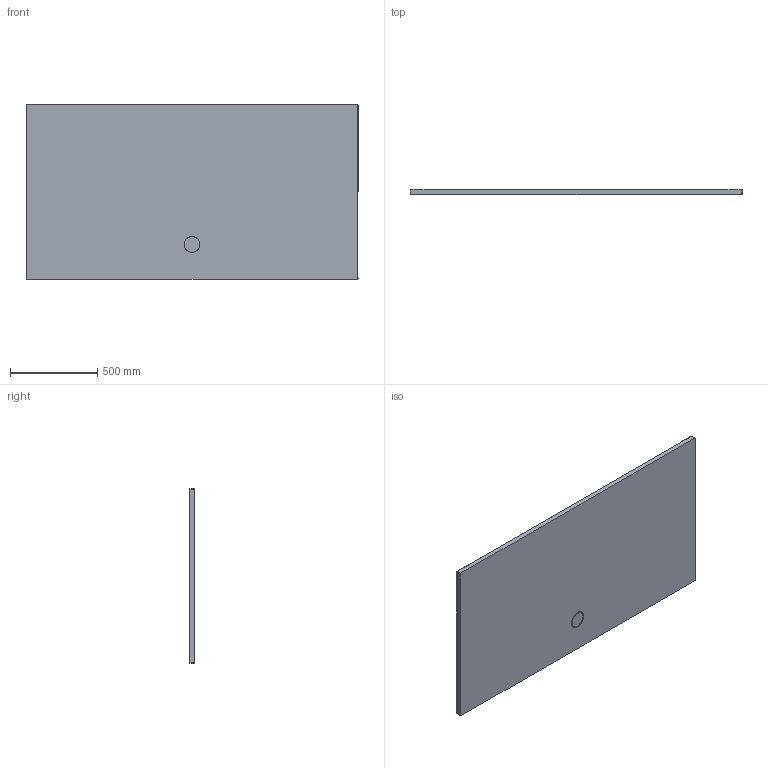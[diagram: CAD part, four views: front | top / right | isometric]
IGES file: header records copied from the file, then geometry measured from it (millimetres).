
Start section: SolidWorks IGES file using analytic representation for surfaces
Global section: file name: D:\Users\M.Szymanski\Desktop\B-M_Space\B_M_100x190x1,5.IGS; native system: SolidWorks 2011; preprocessor: SolidWorks 2011; author: M.Szymanski; date: 180216.071038; units: millimetre
Bounding box: 1900 x 30 x 1000 mm (x, y, z)
Surface area: 3986453.4 mm2 (no closed solid volume)
Topology: 0 solids, 0 shells, 61 faces, 739 edges, 736 vertices
Faces by surface type: bspline 39, revolution 22
